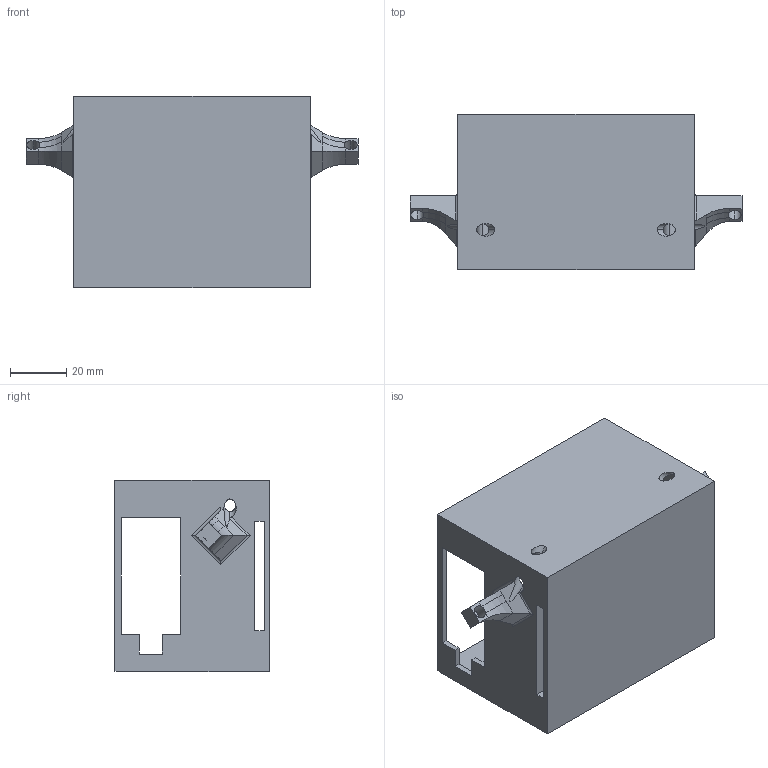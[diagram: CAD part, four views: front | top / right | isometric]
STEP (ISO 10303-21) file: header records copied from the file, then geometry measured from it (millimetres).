
FILE_DESCRIPTION (( 'STEP AP214' ), '1' );
FILE_NAME ('ElectronicsCaseBase.STEP', '2026-07-26T03:48:12', ( '' ), ( '' ), 'SwSTEP 2.0', 'SolidWorks 2026', '' );
FILE_SCHEMA (( 'AUTOMOTIVE_DESIGN' ));
Length unit declared in the file: millimetre
Products named in the file (1): ElectronicsCaseBase
Bounding box: 118 x 55 x 68 mm (x, y, z)
Volume: 65725 mm3; surface area: 46952.5 mm2
Topology: 1 solids, 1 shells, 122 faces, 314 edges, 202 vertices
Faces by surface type: plane 62, cylinder 54, torus 4, bspline 2
Entity records: 3837 total; most frequent: CARTESIAN_POINT 849, ORIENTED_EDGE 628, DIRECTION 592, EDGE_CURVE 314, VERTEX_POINT 202, VECTOR 198, LINE 198, AXIS2_PLACEMENT_3D 197
